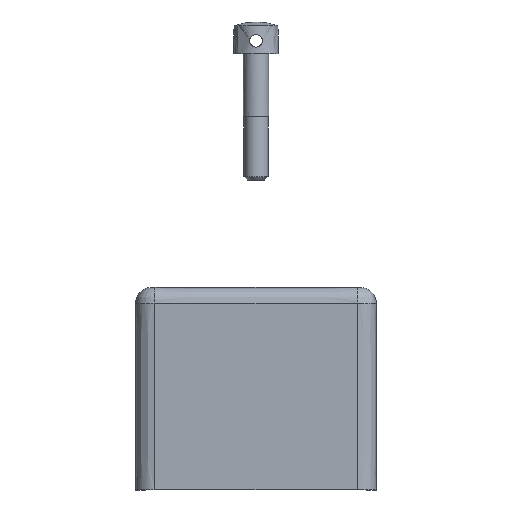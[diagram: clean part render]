
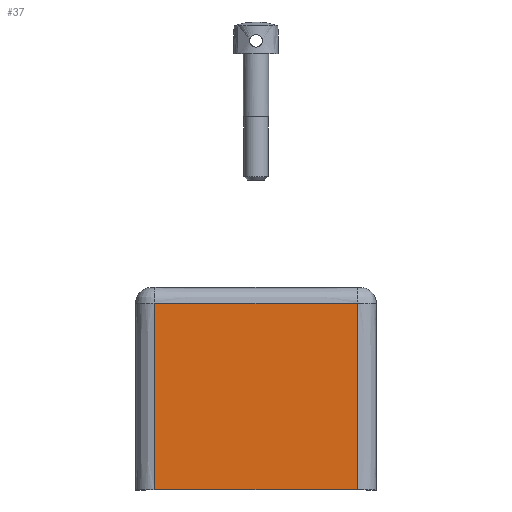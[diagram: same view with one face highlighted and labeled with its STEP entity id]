
A CAD part, top view. The second image highlights one B-rep face of the part: STEP entity #37.
In plain terms, the highlighted planar face has unit normal (0, 0, 1).
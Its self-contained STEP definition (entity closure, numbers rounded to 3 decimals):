
#37=ADVANCED_FACE('',(#111),#1083,.T.);
#111=FACE_OUTER_BOUND('',#183,.T.);
#183=EDGE_LOOP('',(#326,#327,#328,#329));
#326=ORIENTED_EDGE('',*,*,#615,.F.);
#327=ORIENTED_EDGE('',*,*,#611,.T.);
#328=ORIENTED_EDGE('',*,*,#614,.T.);
#329=ORIENTED_EDGE('',*,*,#626,.F.);
#611=EDGE_CURVE('',#943,#942,#761,.T.);
#614=EDGE_CURVE('',#942,#954,#764,.T.);
#615=EDGE_CURVE('',#943,#953,#765,.T.);
#626=EDGE_CURVE('',#953,#954,#776,.T.);
#761=B_SPLINE_CURVE_WITH_KNOTS('',1,(#2585,#2586),.UNSPECIFIED.,.F.,.F.,
(2,2),(117.,149.),.UNSPECIFIED.);
#764=B_SPLINE_CURVE_WITH_KNOTS('',3,(#2655,#2656,#2657,#2658),
 .UNSPECIFIED.,.F.,.F.,(4,4),(0.,29.5),.UNSPECIFIED.);
#765=B_SPLINE_CURVE_WITH_KNOTS('',3,(#2659,#2660,#2661,#2662),
 .UNSPECIFIED.,.F.,.F.,(4,4),(0.,29.5),.UNSPECIFIED.);
#776=B_SPLINE_CURVE_WITH_KNOTS('',3,(#2724,#2725,#2726,#2727),
 .UNSPECIFIED.,.F.,.F.,(4,4),(3.,35.),.UNSPECIFIED.);
#942=VERTEX_POINT('',#2504);
#943=VERTEX_POINT('',#2505);
#953=VERTEX_POINT('',#2515);
#954=VERTEX_POINT('',#2516);
#1083=PLANE('',#1123);
#1123=AXIS2_PLACEMENT_3D('',#2281,#1146,$);
#1146=DIRECTION('',(0.,0.,1.));
#2281=CARTESIAN_POINT('',(38.,-10.,38.));
#2504=CARTESIAN_POINT('',(35.,-10.,38.));
#2505=CARTESIAN_POINT('',(3.,-10.,38.));
#2515=CARTESIAN_POINT('',(3.,19.5,38.));
#2516=CARTESIAN_POINT('',(35.,19.5,38.));
#2585=CARTESIAN_POINT('',(3.,-10.,38.));
#2586=CARTESIAN_POINT('',(35.,-10.,38.));
#2655=CARTESIAN_POINT('',(35.,-10.,38.));
#2656=CARTESIAN_POINT('',(35.,-0.167,38.));
#2657=CARTESIAN_POINT('',(35.,9.667,38.));
#2658=CARTESIAN_POINT('',(35.,19.5,38.));
#2659=CARTESIAN_POINT('',(3.,-10.,38.));
#2660=CARTESIAN_POINT('',(3.,-0.167,38.));
#2661=CARTESIAN_POINT('',(3.,9.667,38.));
#2662=CARTESIAN_POINT('',(3.,19.5,38.));
#2724=CARTESIAN_POINT('',(3.,19.5,38.));
#2725=CARTESIAN_POINT('',(13.667,19.5,38.));
#2726=CARTESIAN_POINT('',(24.333,19.5,38.));
#2727=CARTESIAN_POINT('',(35.,19.5,38.));
